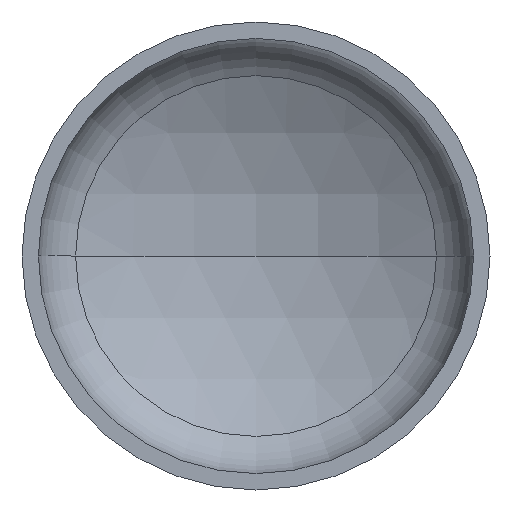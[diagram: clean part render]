
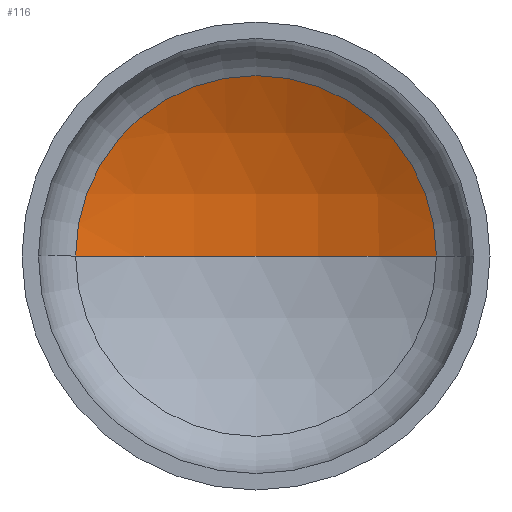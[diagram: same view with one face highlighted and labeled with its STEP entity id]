
A CAD part, front view. The second image highlights one B-rep face of the part: STEP entity #116.
In plain terms, the highlighted spherical face has radius 2240 mm.
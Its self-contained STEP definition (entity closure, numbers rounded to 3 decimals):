
#4 = AXIS2_PLACEMENT_3D ( 'NONE', #266, #106, #291 ) ;
#11 = AXIS2_PLACEMENT_3D ( 'NONE', #378, #33, #340 ) ;
#33 = DIRECTION ( 'NONE',  ( 0., 0., 1. ) ) ;
#36 = EDGE_LOOP ( 'NONE', ( #46, #59, #401 ) ) ;
#46 = ORIENTED_EDGE ( 'NONE', *, *, #346, .F. ) ;
#47 = AXIS2_PLACEMENT_3D ( 'NONE', #362, #181, #189 ) ;
#59 = ORIENTED_EDGE ( 'NONE', *, *, #367, .T. ) ;
#95 = VERTEX_POINT ( 'NONE', #293 ) ;
#96 = VERTEX_POINT ( 'NONE', #282 ) ;
#106 = DIRECTION ( 'NONE',  ( 0., 0., -1. ) ) ;
#116 = ADVANCED_FACE ( 'NONE', ( #319 ), #244, .F. ) ;
#127 = VERTEX_POINT ( 'NONE', #288 ) ;
#150 = CIRCLE ( 'NONE', #11, 2240. ) ;
#176 = CARTESIAN_POINT ( 'NONE',  ( 0., 476.808, 0. ) ) ;
#181 = DIRECTION ( 'NONE',  ( 0., 0., -1. ) ) ;
#189 = DIRECTION ( 'NONE',  ( -1., 0., 0. ) ) ;
#199 = CIRCLE ( 'NONE', #4, 2240. ) ;
#202 = DIRECTION ( 'NONE',  ( 1., 0., 0. ) ) ;
#244 = SPHERICAL_SURFACE ( 'NONE', #47, 2240. ) ;
#266 = CARTESIAN_POINT ( 'NONE',  ( 0., -1486.101, 0. ) ) ;
#282 = CARTESIAN_POINT ( 'NONE',  ( 1079.16, 476.808, 0. ) ) ;
#288 = CARTESIAN_POINT ( 'NONE',  ( -1079.16, 476.808, 0. ) ) ;
#291 = DIRECTION ( 'NONE',  ( -1., 0., 0. ) ) ;
#293 = CARTESIAN_POINT ( 'NONE',  ( 0., 753.899, 0. ) ) ;
#319 = FACE_OUTER_BOUND ( 'NONE', #36, .T. ) ;
#322 = AXIS2_PLACEMENT_3D ( 'NONE', #176, #353, #202 ) ;
#329 = CIRCLE ( 'NONE', #322, 1079.16 ) ;
#340 = DIRECTION ( 'NONE',  ( 1., 0., 0. ) ) ;
#346 = EDGE_CURVE ( 'NONE', #95, #127, #150, .T. ) ;
#353 = DIRECTION ( 'NONE',  ( 0., -1., 0. ) ) ;
#362 = CARTESIAN_POINT ( 'NONE',  ( 0., -1486.101, 0. ) ) ;
#367 = EDGE_CURVE ( 'NONE', #95, #96, #199, .T. ) ;
#368 = EDGE_CURVE ( 'NONE', #96, #127, #329, .T. ) ;
#378 = CARTESIAN_POINT ( 'NONE',  ( 0., -1486.101, 0. ) ) ;
#401 = ORIENTED_EDGE ( 'NONE', *, *, #368, .T. ) ;
